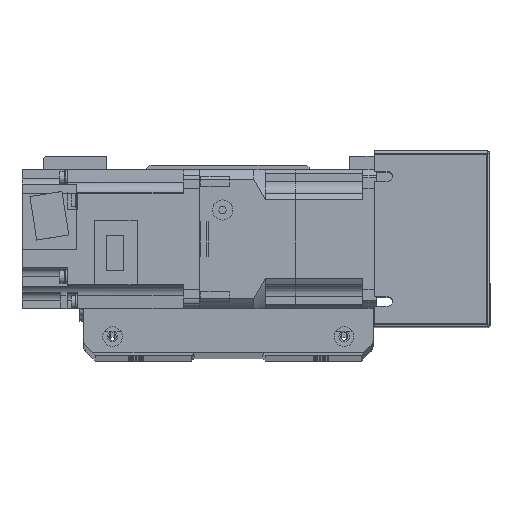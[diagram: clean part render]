
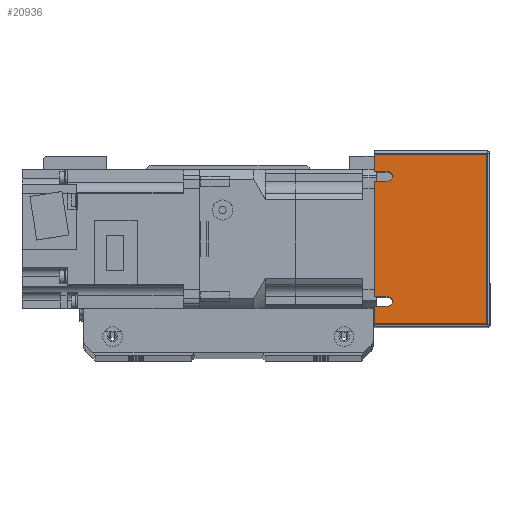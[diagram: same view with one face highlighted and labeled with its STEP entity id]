
A CAD part, top view. The second image highlights one B-rep face of the part: STEP entity #20936.
In plain terms, the highlighted planar face has unit normal (0, 0, 1) as drawn and (-1, 0, 0) by its records, which use the part's own axes.
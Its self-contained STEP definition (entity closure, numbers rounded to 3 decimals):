
#665=PLANE('',#23165);
#1995=LINE('',#35021,#3619);
#2002=LINE('',#35037,#3626);
#2011=LINE('',#35057,#3635);
#2019=LINE('',#35075,#3643);
#2034=LINE('',#35118,#3658);
#2036=LINE('',#35125,#3660);
#2039=LINE('',#35134,#3663);
#2044=LINE('',#35148,#3668);
#2045=LINE('',#35150,#3669);
#2046=LINE('',#35151,#3670);
#3619=VECTOR('',#28524,10.);
#3626=VECTOR('',#28535,10.);
#3635=VECTOR('',#28548,10.);
#3643=VECTOR('',#28560,10.);
#3658=VECTOR('',#28605,10.);
#3660=VECTOR('',#28613,10.);
#3663=VECTOR('',#28622,10.);
#3668=VECTOR('',#28635,10.);
#3669=VECTOR('',#28636,10.);
#3670=VECTOR('',#28637,10.);
#6042=FACE_OUTER_BOUND('',#7686,.T.);
#7686=EDGE_LOOP('',(#18162,#18163,#18164,#18165,#18166,#18167,#18168,#18169,
#18170,#18171,#18172,#18173));
#8844=CIRCLE('',#23144,2.);
#8849=CIRCLE('',#23152,2.);
#10549=VERTEX_POINT('',#35018);
#10550=VERTEX_POINT('',#35020);
#10556=VERTEX_POINT('',#35034);
#10557=VERTEX_POINT('',#35036);
#10565=VERTEX_POINT('',#35054);
#10566=VERTEX_POINT('',#35056);
#10573=VERTEX_POINT('',#35072);
#10574=VERTEX_POINT('',#35074);
#10587=VERTEX_POINT('',#35117);
#10592=VERTEX_POINT('',#35132);
#10597=VERTEX_POINT('',#35147);
#10598=VERTEX_POINT('',#35149);
#13117=EDGE_CURVE('',#10549,#10550,#1995,.T.);
#13124=EDGE_CURVE('',#10556,#10557,#2002,.T.);
#13133=EDGE_CURVE('',#10565,#10566,#2011,.T.);
#13141=EDGE_CURVE('',#10573,#10574,#2019,.T.);
#13148=EDGE_CURVE('',#10557,#10549,#8844,.T.);
#13159=EDGE_CURVE('',#10574,#10565,#8849,.T.);
#13165=EDGE_CURVE('',#10587,#10566,#2034,.T.);
#13169=EDGE_CURVE('',#10573,#10550,#2036,.T.);
#13174=EDGE_CURVE('',#10556,#10592,#2039,.T.);
#13181=EDGE_CURVE('',#10592,#10597,#2044,.T.);
#13182=EDGE_CURVE('',#10597,#10598,#2045,.T.);
#13183=EDGE_CURVE('',#10598,#10587,#2046,.T.);
#18162=ORIENTED_EDGE('',*,*,#13117,.F.);
#18163=ORIENTED_EDGE('',*,*,#13148,.F.);
#18164=ORIENTED_EDGE('',*,*,#13124,.F.);
#18165=ORIENTED_EDGE('',*,*,#13174,.T.);
#18166=ORIENTED_EDGE('',*,*,#13181,.T.);
#18167=ORIENTED_EDGE('',*,*,#13182,.T.);
#18168=ORIENTED_EDGE('',*,*,#13183,.T.);
#18169=ORIENTED_EDGE('',*,*,#13165,.T.);
#18170=ORIENTED_EDGE('',*,*,#13133,.F.);
#18171=ORIENTED_EDGE('',*,*,#13159,.F.);
#18172=ORIENTED_EDGE('',*,*,#13141,.F.);
#18173=ORIENTED_EDGE('',*,*,#13169,.T.);
#20936=ADVANCED_FACE('',(#6042),#665,.F.);
#23144=AXIS2_PLACEMENT_3D('',#35088,#28572,#28573);
#23152=AXIS2_PLACEMENT_3D('',#35106,#28594,#28595);
#23165=AXIS2_PLACEMENT_3D('',#35146,#28633,#28634);
#28524=DIRECTION('',(0.,0.,-1.));
#28535=DIRECTION('',(0.,0.,1.));
#28548=DIRECTION('',(0.,0.,-1.));
#28560=DIRECTION('',(0.,0.,1.));
#28572=DIRECTION('center_axis',(-1.,0.,0.));
#28573=DIRECTION('ref_axis',(0.,0.,-1.));
#28594=DIRECTION('center_axis',(-1.,0.,0.));
#28595=DIRECTION('ref_axis',(0.,0.,-1.));
#28605=DIRECTION('',(0.,-1.,0.));
#28613=DIRECTION('',(0.,-1.,0.));
#28622=DIRECTION('',(0.,-1.,0.));
#28633=DIRECTION('center_axis',(1.,0.,0.));
#28634=DIRECTION('ref_axis',(0.,-1.,0.));
#28635=DIRECTION('',(0.,0.,1.));
#28636=DIRECTION('',(0.,1.,0.));
#28637=DIRECTION('',(0.,0.,-1.));
#35018=CARTESIAN_POINT('',(-91.,-25.,-19.));
#35020=CARTESIAN_POINT('',(-91.,-25.,-25.));
#35021=CARTESIAN_POINT('',(-91.,-25.,-9.5));
#35034=CARTESIAN_POINT('',(-91.,-29.,-25.));
#35036=CARTESIAN_POINT('',(-91.,-29.,-19.));
#35037=CARTESIAN_POINT('',(-91.,-29.,-15.178));
#35054=CARTESIAN_POINT('',(-91.,29.,-19.));
#35056=CARTESIAN_POINT('',(-91.,29.,-25.));
#35057=CARTESIAN_POINT('',(-91.,29.,-9.5));
#35072=CARTESIAN_POINT('',(-91.,25.,-25.));
#35074=CARTESIAN_POINT('',(-91.,25.,-19.));
#35075=CARTESIAN_POINT('',(-91.,25.,-15.178));
#35088=CARTESIAN_POINT('Origin',(-91.,-27.,-19.));
#35106=CARTESIAN_POINT('Origin',(-91.,27.,-19.));
#35117=CARTESIAN_POINT('',(-91.,37.,-25.));
#35118=CARTESIAN_POINT('',(-91.,-38.,-25.));
#35125=CARTESIAN_POINT('',(-91.,-38.,-25.));
#35132=CARTESIAN_POINT('',(-91.,-37.,-25.));
#35134=CARTESIAN_POINT('',(-91.,-38.,-25.));
#35146=CARTESIAN_POINT('Origin',(-91.,38.,0.));
#35147=CARTESIAN_POINT('',(-91.,-37.,24.));
#35148=CARTESIAN_POINT('',(-91.,-37.,0.));
#35149=CARTESIAN_POINT('',(-91.,37.,24.));
#35150=CARTESIAN_POINT('',(-91.,19.,24.));
#35151=CARTESIAN_POINT('',(-91.,37.,0.));
